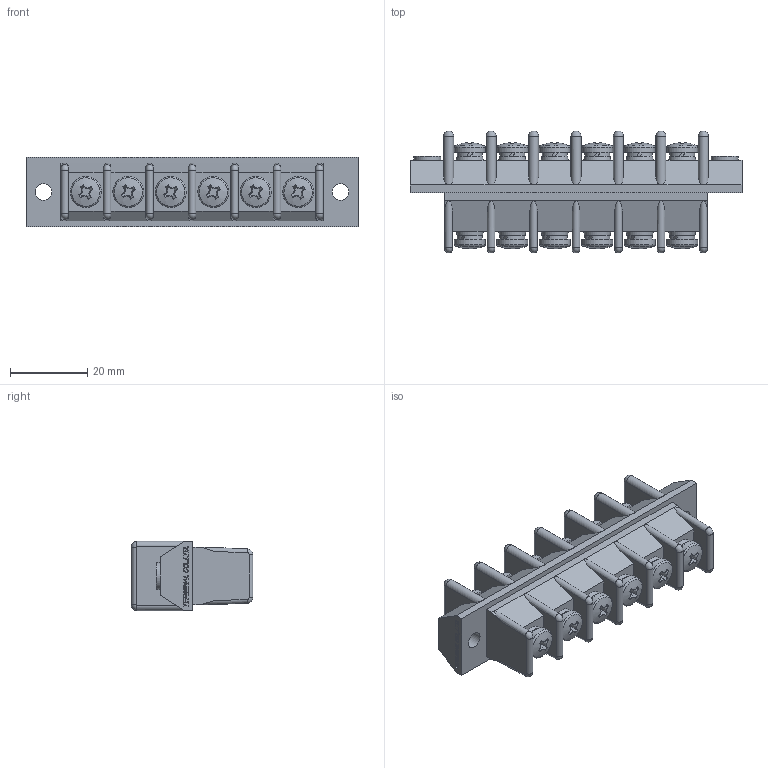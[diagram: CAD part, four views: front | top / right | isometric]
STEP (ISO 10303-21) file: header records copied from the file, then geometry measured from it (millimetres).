
FILE_DESCRIPTION(/* description */ ('Alibre Inc.'),/* implementation_level */ '2;1');
FILE_NAME(/* name */ 'export0',/* time_stamp */ '2016-01-16T17:49:38+09:00',/* author */ (''),/* organization */ (''),/* preprocessor_version */ 'ST-DEVELOPER v14',/* originating_system */ 'Alibre',/* authorisation */ '');
FILE_SCHEMA (('CONFIG_CONTROL_DESIGN'));
Length unit declared in the file: centimetre
Products named in the file (1): ID_1
Bounding box: 86 x 31.57 x 18 mm (x, y, z)
Volume: 24704 mm3; surface area: 12041.5 mm2
Topology: 1 solids, 7 shells, 877 faces, 2272 edges, 1500 vertices
Faces by surface type: plane 561, bspline 104, cylinder 88, cone 72, torus 40, sphere 12
Full cylindrical faces by diameter (mm): 4 x6, 4.3 x2, 6.5 x12, 7 x2, 8 x12
Entity records: 26148 total; most frequent: CARTESIAN_POINT 5870, ORIENTED_EDGE 4412, DIRECTION 3467, EDGE_CURVE 2206, VERTEX_POINT 1492, AXIS2_PLACEMENT_3D 1384, VECTOR 1266, LINE 1266
